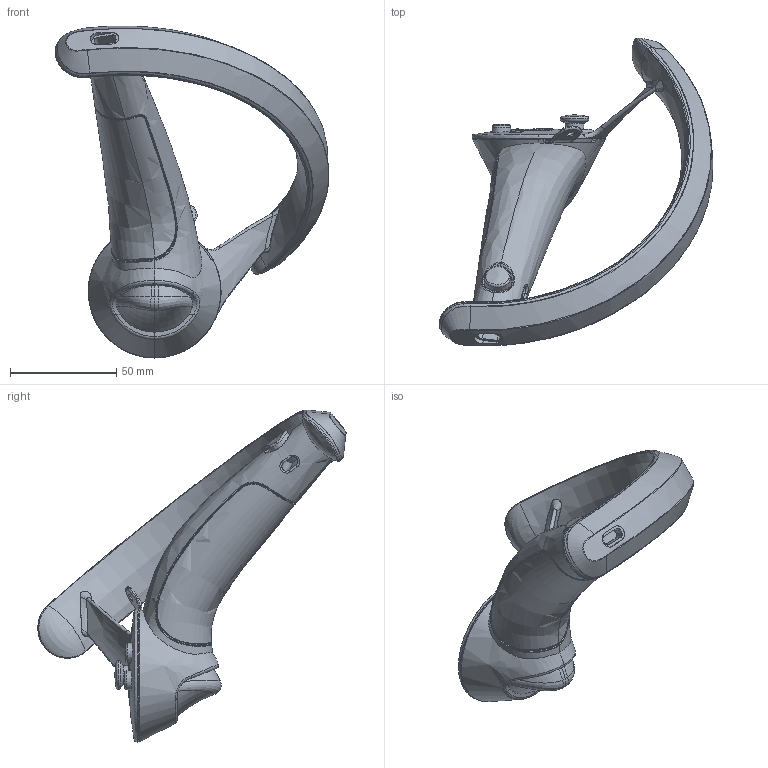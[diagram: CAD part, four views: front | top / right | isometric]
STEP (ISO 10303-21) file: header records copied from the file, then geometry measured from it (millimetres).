
FILE_DESCRIPTION(/* description */ (''),/* implementation_level */ '2;1');
FILE_NAME(/* name */ 'INDEX_CONTROLLER_SOLID.stp',/* time_stamp */ '2019-05-20T08:33:43-07:00',/* author */ (''),/* organization */ (''),/* preprocessor_version */ 'ST-DEVELOPER v16.7',/* originating_system */ 'SIEMENS PLM Software NX 12.0',/* authorisation */ '');
FILE_SCHEMA (('AUTOMOTIVE_DESIGN { 1 0 10303 214 3 1 1 1 }'));
Products named in the file (1): walt30B0C823lyoq
Bounding box: 128.81 x 144.98 x 156.12 mm (x, y, z)
Volume: 234246.1 mm3; surface area: 40666.4 mm2
Topology: 1 solids, 1 shells, 393 faces, 961 edges, 584 vertices
Faces by surface type: bspline 322, plane 31, cone 15, torus 10, cylinder 9, sphere 6
Entity records: 51338 total; most frequent: CARTESIAN_POINT 44828, ORIENTED_EDGE 1862, EDGE_CURVE 931, B_SPLINE_CURVE_WITH_KNOTS 711, VERTEX_POINT 570, DIRECTION 430, EDGE_LOOP 429, ADVANCED_FACE 393
